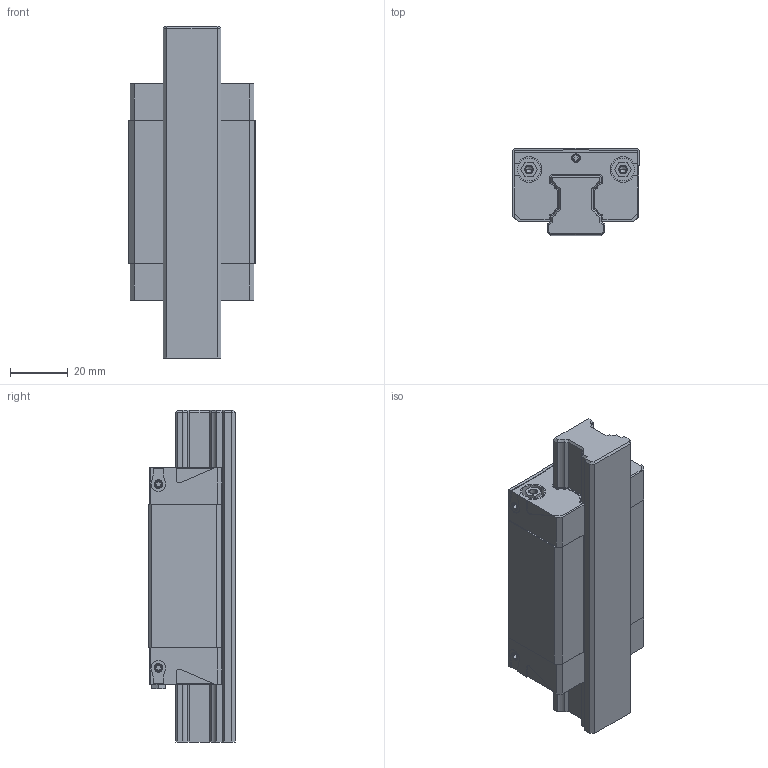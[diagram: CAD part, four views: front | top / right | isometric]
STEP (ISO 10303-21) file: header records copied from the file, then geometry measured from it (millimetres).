
FILE_DESCRIPTION((''),'2;1');
FILE_NAME('KWD_020_SNS_CS__ASM','2021-10-14T06:37:36',('ac91sw'),(''),'CREO PARAMETRIC BY PTC INC, 2020044','CREO PARAMETRIC BY PTC INC, 2020044','');
FILE_SCHEMA(('AUTOMOTIVE_DESIGN { 1 0 10303 214 1 1 1 1 }'));
Length unit declared in the file: millimetre
Products named in the file (7): KWD_020_SNS_CS__SKEL; R201180131; R200180102_Z; R343708901_Z; KWD_020_SNS_CS__PSF; R341702909_Z; KWD_020_SNS_CS__ASM
Assembly tree (11 placements, depth 2):
  KWD_020_SNS_CS__ASM
    KWD_020_SNS_CS__SKEL
    R201180131
    R200180102_Z  x2
    R343708901_Z  x5
    KWD_020_SNS_CS__PSF
    R341702909_Z
Bounding box: 44 x 30 x 115 mm (x, y, z)
Volume: 88698.9 mm3; surface area: 33921.6 mm2
Topology: 10 solids, 24 shells, 501 faces, 1294 edges, 827 vertices
Faces by surface type: plane 291, cylinder 146, cone 64
Entity records: 16411 total; most frequent: CARTESIAN_POINT 2073, DIRECTION 1620, ORIENTED_EDGE 1520, PROPERTY_DEFINITION 825, REPRESENTATION 816, PROPERTY_DEFINITION_REPRESENTATION 816, EDGE_CURVE 776, DESCRIPTIVE_REPRESENTATION_ITEM 759
